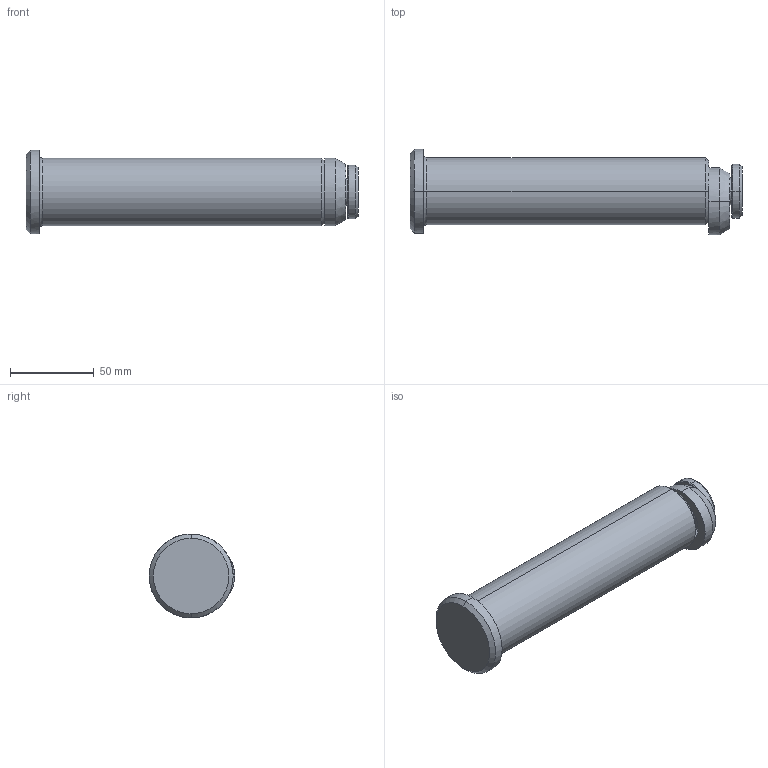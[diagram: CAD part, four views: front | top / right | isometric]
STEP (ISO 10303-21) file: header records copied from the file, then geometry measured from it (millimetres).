
FILE_DESCRIPTION(('CATIA V5 STEP Exchange'),'2;1');
FILE_NAME('C:\Users\Raffaele\Desktop\3D X SITO CF\PERNI -STAFFE SOLLEVAMENTO\395C\GSB_OILLESS_C10305040170\STEP-2.03\395C-040-170.stp','2019-07-03T07:07:14+00:00',('none'),('none'),'CATIA Version 5 Release 20 GA (IN-10)','CATIA V5 STEP AP203','none');
FILE_SCHEMA(('CONFIG_CONTROL_DESIGN'));
Length unit declared in the file: millimetre
Products named in the file (1): 395C-040-170
Assembly tree (3 placements, depth 2):
  395C-040-170
    #58
    #721
    #1092
Bounding box: 197.75 x 51 x 50 mm (x, y, z)
Volume: 243465.8 mm3; surface area: 32718.5 mm2
Topology: 3 solids, 3 shells, 34 faces, 106 edges, 80 vertices
Faces by surface type: cylinder 14, cone 10, plane 8, torus 2
Entity records: 1512 total; most frequent: CARTESIAN_POINT 470, ORIENTED_EDGE 212, DIRECTION 166, EDGE_CURVE 106, AXIS2_PLACEMENT_3D 102, VERTEX_POINT 80, CIRCLE 62, EDGE_LOOP 40
